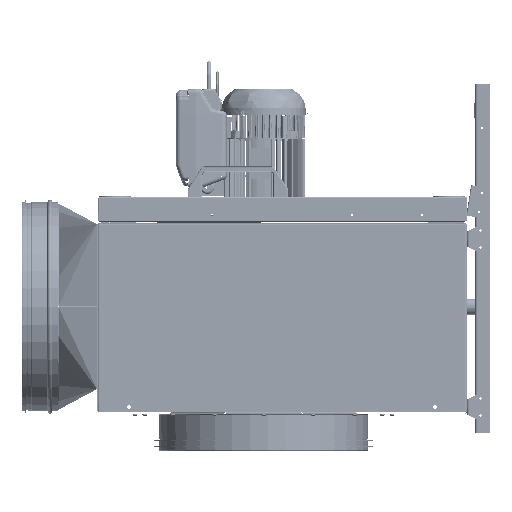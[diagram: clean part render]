
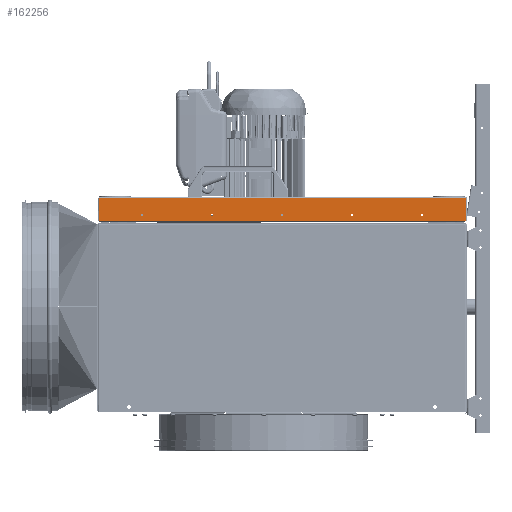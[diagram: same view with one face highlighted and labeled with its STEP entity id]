
A CAD part, left-side view. The second image highlights one B-rep face of the part: STEP entity #162256.
In plain terms, the highlighted planar face has unit normal (-1, 0, 0).
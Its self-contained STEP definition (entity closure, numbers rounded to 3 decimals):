
#3568 = LINE ( 'NONE', #96575, #133126 ) ;
#4702 = AXIS2_PLACEMENT_3D ( 'NONE', #133732, #56124, #146765 ) ;
#5553 = DIRECTION ( 'NONE',  ( 0., 0., -1. ) ) ;
#5710 = CARTESIAN_POINT ( 'NONE',  ( -350.2, 236.27, 337.5 ) ) ;
#5878 = VERTEX_POINT ( 'NONE', #104624 ) ;
#6498 = CARTESIAN_POINT ( 'NONE',  ( -350.2, -235.73, 333.3 ) ) ;
#6784 = VERTEX_POINT ( 'NONE', #136284 ) ;
#7804 = EDGE_CURVE ( 'NONE', #6784, #42551, #3568, .T. ) ;
#7809 = EDGE_LOOP ( 'NONE', ( #121295, #12471 ) ) ;
#8396 = CARTESIAN_POINT ( 'NONE',  ( -350.2, 309.27, 363.4 ) ) ;
#8455 = FACE_OUTER_BOUND ( 'NONE', #37917, .T. ) ;
#12243 = EDGE_CURVE ( 'NONE', #74859, #6784, #62178, .T. ) ;
#12471 = ORIENTED_EDGE ( 'NONE', *, *, #62421, .T. ) ;
#12486 = ORIENTED_EDGE ( 'NONE', *, *, #7804, .T. ) ;
#16785 = LINE ( 'NONE', #129334, #150513 ) ;
#18544 = AXIS2_PLACEMENT_3D ( 'NONE', #50937, #141625, #64031 ) ;
#21886 = DIRECTION ( 'NONE',  ( 0., 0., -1. ) ) ;
#23993 = CIRCLE ( 'NONE', #163910, 2.1 ) ;
#25351 = DIRECTION ( 'NONE',  ( 1., 0., 0. ) ) ;
#31702 = VECTOR ( 'NONE', #141144, 1000. ) ;
#35459 = ORIENTED_EDGE ( 'NONE', *, *, #79042, .T. ) ;
#37304 = AXIS2_PLACEMENT_3D ( 'NONE', #77167, #167790, #90152 ) ;
#37917 = EDGE_LOOP ( 'NONE', ( #12486, #131785, #127988, #88288 ) ) ;
#38327 = VERTEX_POINT ( 'NONE', #83561 ) ;
#39378 = CARTESIAN_POINT ( 'NONE',  ( -350.2, -117.73, 335.4 ) ) ;
#40001 = CIRCLE ( 'NONE', #4702, 2.1 ) ;
#40740 = CIRCLE ( 'NONE', #103865, 2.1 ) ;
#40804 = CIRCLE ( 'NONE', #88522, 2.1 ) ;
#41791 = AXIS2_PLACEMENT_3D ( 'NONE', #51524, #142229, #64631 ) ;
#42551 = VERTEX_POINT ( 'NONE', #113362 ) ;
#42735 = FACE_BOUND ( 'NONE', #156850, .T. ) ;
#43498 = EDGE_CURVE ( 'NONE', #160802, #116905, #143344, .T. ) ;
#44114 = DIRECTION ( 'NONE',  ( 1., 0., 0. ) ) ;
#45222 = CARTESIAN_POINT ( 'NONE',  ( -350.2, -235.73, 335.4 ) ) ;
#46806 = FACE_BOUND ( 'NONE', #166496, .T. ) ;
#47972 = VECTOR ( 'NONE', #21886, 1000. ) ;
#49665 = DIRECTION ( 'NONE',  ( 0., 0., 1. ) ) ;
#50937 = CARTESIAN_POINT ( 'NONE',  ( -350.2, 236.27, 335.4 ) ) ;
#51368 = EDGE_CURVE ( 'NONE', #5878, #38327, #40804, .T. ) ;
#51524 = CARTESIAN_POINT ( 'NONE',  ( -350.2, 0.27, 335.4 ) ) ;
#51709 = DIRECTION ( 'NONE',  ( 0., -1., 0. ) ) ;
#52453 = AXIS2_PLACEMENT_3D ( 'NONE', #121791, #44114, #134820 ) ;
#52471 = DIRECTION ( 'NONE',  ( 0., 0., -1. ) ) ;
#52947 = DIRECTION ( 'NONE',  ( 1., 0., 0. ) ) ;
#54387 = VERTEX_POINT ( 'NONE', #102800 ) ;
#54909 = CARTESIAN_POINT ( 'NONE',  ( -350.2, -117.73, 333.3 ) ) ;
#56124 = DIRECTION ( 'NONE',  ( 1., 0., 0. ) ) ;
#58032 = EDGE_CURVE ( 'NONE', #142918, #83485, #60470, .T. ) ;
#58330 = DIRECTION ( 'NONE',  ( 0., 0., -1. ) ) ;
#60470 = CIRCLE ( 'NONE', #110745, 2.1 ) ;
#62178 = LINE ( 'NONE', #99227, #31702 ) ;
#62421 = EDGE_CURVE ( 'NONE', #38327, #5878, #70476, .T. ) ;
#63978 = EDGE_LOOP ( 'NONE', ( #158672, #35459 ) ) ;
#64031 = DIRECTION ( 'NONE',  ( 0., 0., -1. ) ) ;
#64110 = PLANE ( 'NONE',  #37304 ) ;
#64157 = EDGE_CURVE ( 'NONE', #83485, #142918, #40740, .T. ) ;
#64413 = VERTEX_POINT ( 'NONE', #135566 ) ;
#64631 = DIRECTION ( 'NONE',  ( 0., 0., -1. ) ) ;
#65540 = CARTESIAN_POINT ( 'NONE',  ( -350.2, 0.27, 335.4 ) ) ;
#70476 = CIRCLE ( 'NONE', #41791, 2.1 ) ;
#73248 = FACE_BOUND ( 'NONE', #84096, .T. ) ;
#74575 = AXIS2_PLACEMENT_3D ( 'NONE', #160687, #83123, #5553 ) ;
#74859 = VERTEX_POINT ( 'NONE', #97715 ) ;
#77167 = CARTESIAN_POINT ( 'NONE',  ( -350.2, 310.47, 364.6 ) ) ;
#77310 = FACE_BOUND ( 'NONE', #7809, .T. ) ;
#78564 = DIRECTION ( 'NONE',  ( 0., 0., -1. ) ) ;
#78661 = CIRCLE ( 'NONE', #74575, 2.1 ) ;
#79042 = EDGE_CURVE ( 'NONE', #152851, #64413, #161219, .T. ) ;
#82119 = ORIENTED_EDGE ( 'NONE', *, *, #105189, .T. ) ;
#82532 = LINE ( 'NONE', #8396, #47972 ) ;
#83123 = DIRECTION ( 'NONE',  ( 1., 0., 0. ) ) ;
#83485 = VERTEX_POINT ( 'NONE', #6498 ) ;
#83561 = CARTESIAN_POINT ( 'NONE',  ( -350.2, 0.27, 337.5 ) ) ;
#84096 = EDGE_LOOP ( 'NONE', ( #110909, #113829 ) ) ;
#85573 = ORIENTED_EDGE ( 'NONE', *, *, #43498, .T. ) ;
#86479 = AXIS2_PLACEMENT_3D ( 'NONE', #102930, #25351, #115952 ) ;
#88288 = ORIENTED_EDGE ( 'NONE', *, *, #12243, .T. ) ;
#88522 = AXIS2_PLACEMENT_3D ( 'NONE', #65540, #156161, #78564 ) ;
#90152 = DIRECTION ( 'NONE',  ( 0., 0., -1. ) ) ;
#93258 = ORIENTED_EDGE ( 'NONE', *, *, #64157, .T. ) ;
#93312 = EDGE_CURVE ( 'NONE', #105115, #74859, #82532, .T. ) ;
#96575 = CARTESIAN_POINT ( 'NONE',  ( -350.2, -310.07, 324.9 ) ) ;
#97715 = CARTESIAN_POINT ( 'NONE',  ( -350.2, 309.27, 324.9 ) ) ;
#99227 = CARTESIAN_POINT ( 'NONE',  ( -350.2, -311.27, 324.9 ) ) ;
#102800 = CARTESIAN_POINT ( 'NONE',  ( -350.2, -117.73, 337.5 ) ) ;
#102930 = CARTESIAN_POINT ( 'NONE',  ( -350.2, -117.73, 335.4 ) ) ;
#103865 = AXIS2_PLACEMENT_3D ( 'NONE', #130525, #52947, #143605 ) ;
#104624 = CARTESIAN_POINT ( 'NONE',  ( -350.2, 0.27, 333.3 ) ) ;
#104940 = EDGE_CURVE ( 'NONE', #54387, #119991, #115146, .T. ) ;
#105115 = VERTEX_POINT ( 'NONE', #118782 ) ;
#105189 = EDGE_CURVE ( 'NONE', #116905, #160802, #78661, .T. ) ;
#107619 = FACE_BOUND ( 'NONE', #63978, .T. ) ;
#110724 = EDGE_CURVE ( 'NONE', #64413, #152851, #40001, .T. ) ;
#110745 = AXIS2_PLACEMENT_3D ( 'NONE', #45222, #135933, #58330 ) ;
#110909 = ORIENTED_EDGE ( 'NONE', *, *, #146652, .T. ) ;
#112327 = CARTESIAN_POINT ( 'NONE',  ( -350.2, 236.27, 333.3 ) ) ;
#113362 = CARTESIAN_POINT ( 'NONE',  ( -350.2, -310.07, 363.4 ) ) ;
#113829 = ORIENTED_EDGE ( 'NONE', *, *, #104940, .T. ) ;
#114043 = CARTESIAN_POINT ( 'NONE',  ( -350.2, 118.27, 337.5 ) ) ;
#115146 = CIRCLE ( 'NONE', #86479, 2.1 ) ;
#115952 = DIRECTION ( 'NONE',  ( 0., 0., -1. ) ) ;
#116905 = VERTEX_POINT ( 'NONE', #5710 ) ;
#118782 = CARTESIAN_POINT ( 'NONE',  ( -350.2, 309.27, 363.4 ) ) ;
#119991 = VERTEX_POINT ( 'NONE', #54909 ) ;
#121295 = ORIENTED_EDGE ( 'NONE', *, *, #51368, .T. ) ;
#121791 = CARTESIAN_POINT ( 'NONE',  ( -350.2, 118.27, 335.4 ) ) ;
#127988 = ORIENTED_EDGE ( 'NONE', *, *, #93312, .T. ) ;
#129334 = CARTESIAN_POINT ( 'NONE',  ( -350.2, 310.47, 363.4 ) ) ;
#130065 = DIRECTION ( 'NONE',  ( 1., 0., 0. ) ) ;
#130525 = CARTESIAN_POINT ( 'NONE',  ( -350.2, -235.73, 335.4 ) ) ;
#131257 = EDGE_CURVE ( 'NONE', #105115, #42551, #16785, .T. ) ;
#131785 = ORIENTED_EDGE ( 'NONE', *, *, #131257, .F. ) ;
#133126 = VECTOR ( 'NONE', #49665, 1000. ) ;
#133732 = CARTESIAN_POINT ( 'NONE',  ( -350.2, 118.27, 335.4 ) ) ;
#134820 = DIRECTION ( 'NONE',  ( 0., 0., -1. ) ) ;
#135566 = CARTESIAN_POINT ( 'NONE',  ( -350.2, 118.27, 333.3 ) ) ;
#135933 = DIRECTION ( 'NONE',  ( 1., 0., 0. ) ) ;
#136284 = CARTESIAN_POINT ( 'NONE',  ( -350.2, -310.07, 324.9 ) ) ;
#141144 = DIRECTION ( 'NONE',  ( 0., -1., 0. ) ) ;
#141625 = DIRECTION ( 'NONE',  ( 1., 0., 0. ) ) ;
#142229 = DIRECTION ( 'NONE',  ( 1., 0., 0. ) ) ;
#142918 = VERTEX_POINT ( 'NONE', #167504 ) ;
#143344 = CIRCLE ( 'NONE', #18544, 2.1 ) ;
#143605 = DIRECTION ( 'NONE',  ( 0., 0., -1. ) ) ;
#146652 = EDGE_CURVE ( 'NONE', #119991, #54387, #23993, .T. ) ;
#146765 = DIRECTION ( 'NONE',  ( 0., 0., -1. ) ) ;
#150513 = VECTOR ( 'NONE', #51709, 1000. ) ;
#152851 = VERTEX_POINT ( 'NONE', #114043 ) ;
#156161 = DIRECTION ( 'NONE',  ( 1., 0., 0. ) ) ;
#156850 = EDGE_LOOP ( 'NONE', ( #85573, #82119 ) ) ;
#158672 = ORIENTED_EDGE ( 'NONE', *, *, #110724, .T. ) ;
#160687 = CARTESIAN_POINT ( 'NONE',  ( -350.2, 236.27, 335.4 ) ) ;
#160802 = VERTEX_POINT ( 'NONE', #112327 ) ;
#161219 = CIRCLE ( 'NONE', #52453, 2.1 ) ;
#162256 = ADVANCED_FACE ( 'NONE', ( #107619, #42735, #8455, #77310, #73248, #46806 ), #64110, .F. ) ;
#163910 = AXIS2_PLACEMENT_3D ( 'NONE', #39378, #130065, #52471 ) ;
#166496 = EDGE_LOOP ( 'NONE', ( #93258, #167702 ) ) ;
#167504 = CARTESIAN_POINT ( 'NONE',  ( -350.2, -235.73, 337.5 ) ) ;
#167702 = ORIENTED_EDGE ( 'NONE', *, *, #58032, .T. ) ;
#167790 = DIRECTION ( 'NONE',  ( 1., 0., 0. ) ) ;
